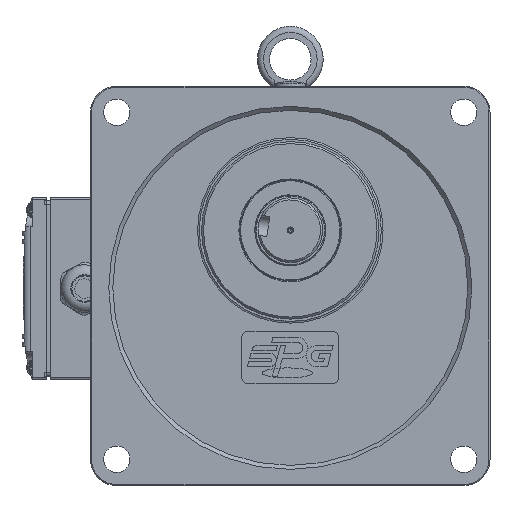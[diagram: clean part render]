
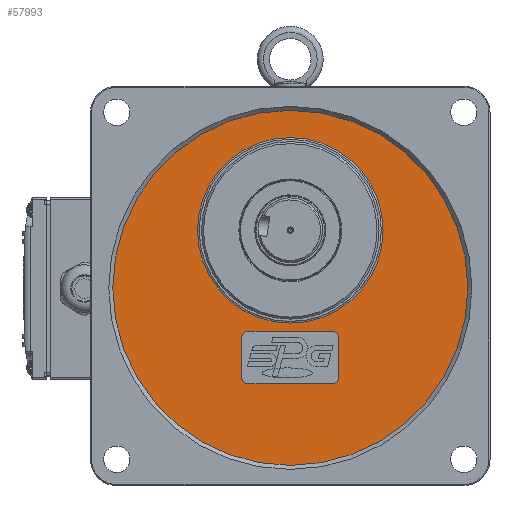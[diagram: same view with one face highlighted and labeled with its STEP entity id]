
A CAD part, top view. The second image highlights one B-rep face of the part: STEP entity #57993.
In plain terms, the highlighted planar face has unit normal (0, 0, 1).
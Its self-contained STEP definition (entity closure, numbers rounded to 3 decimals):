
#890=FACE_BOUND('',#14283,.T.);
#891=FACE_BOUND('',#14284,.T.);
#1610=PLANE('',#63164);
#4067=LINE('',#98699,#7095);
#4162=LINE('',#98938,#7190);
#4167=LINE('',#98954,#7195);
#4170=LINE('',#98962,#7198);
#7095=VECTOR('',#74462,10.);
#7190=VECTOR('',#74725,10.);
#7195=VECTOR('',#74744,10.);
#7198=VECTOR('',#74753,10.);
#10696=FACE_OUTER_BOUND('',#14282,.T.);
#14282=EDGE_LOOP('',(#43801));
#14283=EDGE_LOOP('',(#43802,#43803,#43804,#43805,#43806,#43807,#43808,#43809));
#14284=EDGE_LOOP('',(#43810));
#17885=CIRCLE('',#62859,88.);
#18038=CIRCLE('',#63146,3.);
#18042=CIRCLE('',#63153,3.);
#18043=CIRCLE('',#63156,3.);
#18044=CIRCLE('',#63159,3.);
#18047=CIRCLE('',#63165,46.);
#24258=VERTEX_POINT('',#97722);
#24423=VERTEX_POINT('',#98695);
#24425=VERTEX_POINT('',#98698);
#24482=VERTEX_POINT('',#98929);
#24483=VERTEX_POINT('',#98931);
#24484=VERTEX_POINT('',#98935);
#24489=VERTEX_POINT('',#98952);
#24490=VERTEX_POINT('',#98956);
#24491=VERTEX_POINT('',#98960);
#24494=VERTEX_POINT('',#98973);
#30929=EDGE_CURVE('',#24258,#24258,#17885,.T.);
#31179=EDGE_CURVE('',#24425,#24423,#4067,.T.);
#31296=EDGE_CURVE('',#24482,#24483,#18038,.T.);
#31299=EDGE_CURVE('',#24482,#24484,#4162,.T.);
#31306=EDGE_CURVE('',#24425,#24484,#18042,.T.);
#31308=EDGE_CURVE('',#24489,#24483,#4167,.T.);
#31309=EDGE_CURVE('',#24489,#24490,#18043,.T.);
#31312=EDGE_CURVE('',#24491,#24490,#4170,.T.);
#31313=EDGE_CURVE('',#24491,#24423,#18044,.T.);
#31317=EDGE_CURVE('',#24494,#24494,#18047,.T.);
#43801=ORIENTED_EDGE('',*,*,#30929,.T.);
#43802=ORIENTED_EDGE('',*,*,#31308,.T.);
#43803=ORIENTED_EDGE('',*,*,#31296,.F.);
#43804=ORIENTED_EDGE('',*,*,#31299,.T.);
#43805=ORIENTED_EDGE('',*,*,#31306,.F.);
#43806=ORIENTED_EDGE('',*,*,#31179,.T.);
#43807=ORIENTED_EDGE('',*,*,#31313,.F.);
#43808=ORIENTED_EDGE('',*,*,#31312,.T.);
#43809=ORIENTED_EDGE('',*,*,#31309,.F.);
#43810=ORIENTED_EDGE('',*,*,#31317,.F.);
#57993=ADVANCED_FACE('',(#10696,#890,#891),#1610,.F.);
#62859=AXIS2_PLACEMENT_3D('',#97724,#73957,#73958);
#63146=AXIS2_PLACEMENT_3D('',#98932,#74719,#74720);
#63153=AXIS2_PLACEMENT_3D('',#98950,#74739,#74740);
#63156=AXIS2_PLACEMENT_3D('',#98957,#74747,#74748);
#63159=AXIS2_PLACEMENT_3D('',#98964,#74756,#74757);
#63164=AXIS2_PLACEMENT_3D('',#98972,#74767,#74768);
#63165=AXIS2_PLACEMENT_3D('',#98974,#74769,#74770);
#73957=DIRECTION('center_axis',(0.,0.,1.));
#73958=DIRECTION('ref_axis',(-1.,0.,0.));
#74462=DIRECTION('',(0.,-1.,0.));
#74719=DIRECTION('center_axis',(0.,0.,1.));
#74720=DIRECTION('ref_axis',(-0.707,0.707,0.));
#74725=DIRECTION('',(1.,0.,0.));
#74739=DIRECTION('center_axis',(0.,0.,1.));
#74740=DIRECTION('ref_axis',(0.707,0.707,0.));
#74744=DIRECTION('',(0.,1.,0.));
#74747=DIRECTION('center_axis',(0.,0.,1.));
#74748=DIRECTION('ref_axis',(-0.707,-0.707,0.));
#74753=DIRECTION('',(-1.,0.,0.));
#74756=DIRECTION('center_axis',(0.,0.,1.));
#74757=DIRECTION('ref_axis',(0.707,-0.707,0.));
#74767=DIRECTION('center_axis',(0.,0.,-1.));
#74768=DIRECTION('ref_axis',(-1.,0.,0.));
#74769=DIRECTION('center_axis',(0.,0.,1.));
#74770=DIRECTION('ref_axis',(-1.,0.,0.));
#97722=CARTESIAN_POINT('',(49.845,18.817,29.75));
#97724=CARTESIAN_POINT('Origin',(-38.155,18.817,29.75));
#98695=CARTESIAN_POINT('',(-14.155,-25.683,29.75));
#98698=CARTESIAN_POINT('',(-14.155,-5.683,29.75));
#98699=CARTESIAN_POINT('',(-14.155,-4.933,29.75));
#98929=CARTESIAN_POINT('',(-59.155,-2.683,29.75));
#98931=CARTESIAN_POINT('',(-62.155,-5.683,29.75));
#98932=CARTESIAN_POINT('Origin',(-59.155,-5.683,29.75));
#98935=CARTESIAN_POINT('',(-17.155,-2.683,29.75));
#98938=CARTESIAN_POINT('',(-26.155,-2.683,29.75));
#98950=CARTESIAN_POINT('Origin',(-17.155,-5.683,29.75));
#98952=CARTESIAN_POINT('',(-62.155,-25.683,29.75));
#98954=CARTESIAN_POINT('',(-62.155,8.067,29.75));
#98956=CARTESIAN_POINT('',(-59.155,-28.683,29.75));
#98957=CARTESIAN_POINT('Origin',(-59.155,-25.683,29.75));
#98960=CARTESIAN_POINT('',(-17.155,-28.683,29.75));
#98962=CARTESIAN_POINT('',(-50.155,-28.683,29.75));
#98964=CARTESIAN_POINT('Origin',(-17.155,-25.683,29.75));
#98972=CARTESIAN_POINT('Origin',(-38.155,18.817,29.75));
#98973=CARTESIAN_POINT('',(-84.155,47.317,29.75));
#98974=CARTESIAN_POINT('Origin',(-38.155,47.317,29.75));
